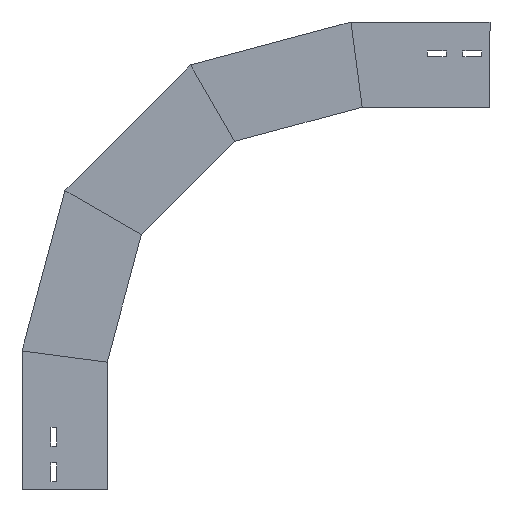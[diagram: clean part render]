
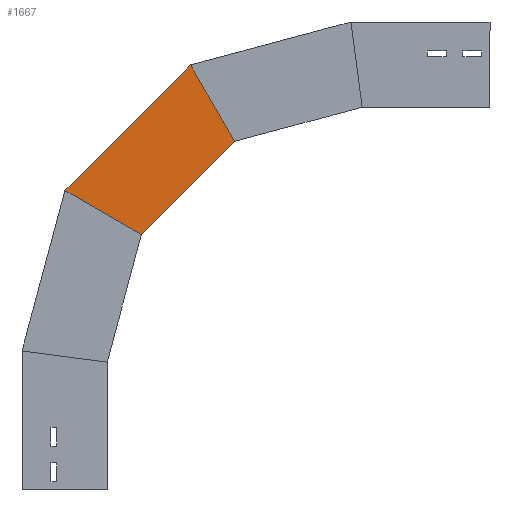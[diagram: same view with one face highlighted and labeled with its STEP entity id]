
A CAD part, left-side view. The second image highlights one B-rep face of the part: STEP entity #1667.
In plain terms, the highlighted planar face has unit normal (-1, 0, 0) as drawn and (1, 0, 0) by its records, which use the part's own axes.
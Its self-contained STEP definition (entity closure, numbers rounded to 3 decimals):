
#12 = VERTEX_POINT ( 'NONE', #685 ) ;
#29 = VECTOR ( 'NONE', #767, 1000. ) ;
#76 = FACE_OUTER_BOUND ( 'NONE', #582, .T. ) ;
#106 = LINE ( 'NONE', #277, #877 ) ;
#107 = ORIENTED_EDGE ( 'NONE', *, *, #1380, .T. ) ;
#116 = ORIENTED_EDGE ( 'NONE', *, *, #1116, .F. ) ;
#248 = DIRECTION ( 'NONE',  ( 0., -0.707, 0.707 ) ) ;
#261 = VECTOR ( 'NONE', #944, 1000. ) ;
#262 = EDGE_CURVE ( 'NONE', #12, #1137, #1281, .T. ) ;
#277 = CARTESIAN_POINT ( 'NONE',  ( 0., 51.506, 349.517 ) ) ;
#362 = CARTESIAN_POINT ( 'NONE',  ( 0., -19.205, 278.806 ) ) ;
#368 = LINE ( 'NONE', #965, #692 ) ;
#377 = DIRECTION ( 'NONE',  ( 1., 0., 0. ) ) ;
#582 = EDGE_LOOP ( 'NONE', ( #107, #1874, #116, #643 ) ) ;
#643 = ORIENTED_EDGE ( 'NONE', *, *, #773, .F. ) ;
#685 = CARTESIAN_POINT ( 'NONE',  ( 0., -97.955, 498.978 ) ) ;
#692 = VECTOR ( 'NONE', #1668, 1000. ) ;
#712 = VERTEX_POINT ( 'NONE', #1477 ) ;
#736 = LINE ( 'NONE', #879, #29 ) ;
#767 = DIRECTION ( 'NONE',  ( 0., -0.707, 0.707 ) ) ;
#773 = EDGE_CURVE ( 'NONE', #712, #831, #368, .T. ) ;
#831 = VERTEX_POINT ( 'NONE', #1260 ) ;
#877 = VECTOR ( 'NONE', #248, 1000. ) ;
#879 = CARTESIAN_POINT ( 'NONE',  ( 0., -19.205, 278.806 ) ) ;
#944 = DIRECTION ( 'NONE',  ( 0., -0.5, -0.866 ) ) ;
#965 = CARTESIAN_POINT ( 'NONE',  ( 0., -78.128, 277.773 ) ) ;
#999 = DIRECTION ( 'NONE',  ( 0., 0., -1. ) ) ;
#1099 = PLANE ( 'NONE',  #1322 ) ;
#1116 = EDGE_CURVE ( 'NONE', #831, #1137, #736, .T. ) ;
#1137 = VERTEX_POINT ( 'NONE', #1213 ) ;
#1213 = CARTESIAN_POINT ( 'NONE',  ( 0., -149.719, 409.32 ) ) ;
#1260 = CARTESIAN_POINT ( 'NONE',  ( 0., -40.117, 299.719 ) ) ;
#1281 = LINE ( 'NONE', #1873, #261 ) ;
#1322 = AXIS2_PLACEMENT_3D ( 'NONE', #362, #377, #999 ) ;
#1380 = EDGE_CURVE ( 'NONE', #712, #12, #106, .T. ) ;
#1477 = CARTESIAN_POINT ( 'NONE',  ( 0., 49.541, 351.482 ) ) ;
#1667 = ADVANCED_FACE ( 'NONE', ( #76 ), #1099, .T. ) ;
#1668 = DIRECTION ( 'NONE',  ( 0., -0.866, -0.5 ) ) ;
#1873 = CARTESIAN_POINT ( 'NONE',  ( 0., -173.604, 367.949 ) ) ;
#1874 = ORIENTED_EDGE ( 'NONE', *, *, #262, .T. ) ;
